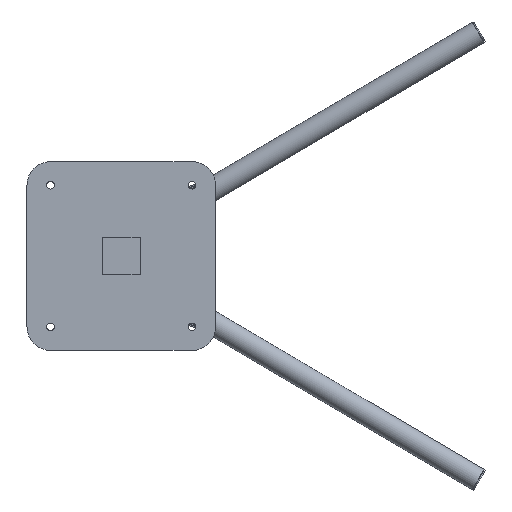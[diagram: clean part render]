
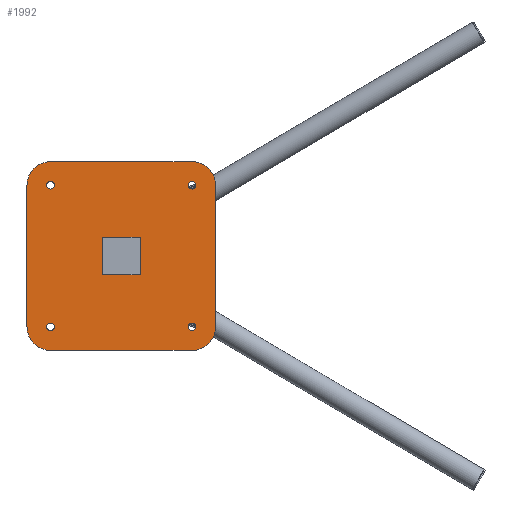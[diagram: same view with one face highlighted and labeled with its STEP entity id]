
A CAD part, front view. The second image highlights one B-rep face of the part: STEP entity #1992.
In plain terms, the highlighted planar face has unit normal (0, -1, 0).
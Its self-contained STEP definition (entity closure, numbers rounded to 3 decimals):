
#83=CIRCLE('',#2201,50.);
#84=CIRCLE('',#2202,50.);
#85=CIRCLE('',#2203,50.);
#86=CIRCLE('',#2204,50.);
#87=CIRCLE('',#2205,8.);
#88=CIRCLE('',#2206,8.);
#89=CIRCLE('',#2207,8.);
#90=CIRCLE('',#2208,8.);
#217=LINE('',#3233,#399);
#223=LINE('',#3246,#405);
#227=LINE('',#3255,#409);
#234=LINE('',#3284,#416);
#237=LINE('',#3298,#419);
#238=LINE('',#3300,#420);
#239=LINE('',#3302,#421);
#240=LINE('',#3303,#422);
#399=VECTOR('',#2639,300.);
#405=VECTOR('',#2647,300.);
#409=VECTOR('',#2653,300.);
#416=VECTOR('',#2680,300.);
#419=VECTOR('',#2697,80.);
#420=VECTOR('',#2698,80.);
#421=VECTOR('',#2699,80.);
#422=VECTOR('',#2700,80.);
#540=FACE_BOUND('',#750,.T.);
#541=FACE_BOUND('',#751,.T.);
#542=FACE_BOUND('',#752,.T.);
#543=FACE_BOUND('',#753,.T.);
#544=FACE_BOUND('',#754,.T.);
#622=FACE_OUTER_BOUND('',#749,.T.);
#749=EDGE_LOOP('',(#1643,#1644,#1645,#1646,#1647,#1648,#1649,#1650));
#750=EDGE_LOOP('',(#1651));
#751=EDGE_LOOP('',(#1652));
#752=EDGE_LOOP('',(#1653,#1654,#1655,#1656));
#753=EDGE_LOOP('',(#1657));
#754=EDGE_LOOP('',(#1658));
#925=VERTEX_POINT('',#3231);
#926=VERTEX_POINT('',#3232);
#931=VERTEX_POINT('',#3243);
#932=VERTEX_POINT('',#3245);
#935=VERTEX_POINT('',#3252);
#936=VERTEX_POINT('',#3254);
#947=VERTEX_POINT('',#3282);
#948=VERTEX_POINT('',#3283);
#949=VERTEX_POINT('',#3292);
#950=VERTEX_POINT('',#3294);
#951=VERTEX_POINT('',#3296);
#952=VERTEX_POINT('',#3297);
#953=VERTEX_POINT('',#3299);
#954=VERTEX_POINT('',#3301);
#955=VERTEX_POINT('',#3304);
#956=VERTEX_POINT('',#3306);
#1167=EDGE_CURVE('',#925,#926,#217,.T.);
#1173=EDGE_CURVE('',#931,#932,#223,.T.);
#1177=EDGE_CURVE('',#936,#935,#227,.T.);
#1192=EDGE_CURVE('',#947,#948,#234,.T.);
#1195=EDGE_CURVE('',#926,#948,#83,.T.);
#1196=EDGE_CURVE('',#947,#932,#84,.T.);
#1197=EDGE_CURVE('',#931,#936,#85,.T.);
#1198=EDGE_CURVE('',#935,#925,#86,.T.);
#1199=EDGE_CURVE('',#949,#949,#87,.T.);
#1200=EDGE_CURVE('',#950,#950,#88,.T.);
#1201=EDGE_CURVE('',#951,#952,#237,.T.);
#1202=EDGE_CURVE('',#953,#951,#238,.T.);
#1203=EDGE_CURVE('',#954,#953,#239,.T.);
#1204=EDGE_CURVE('',#952,#954,#240,.T.);
#1205=EDGE_CURVE('',#955,#955,#89,.T.);
#1206=EDGE_CURVE('',#956,#956,#90,.T.);
#1643=ORIENTED_EDGE('',*,*,#1167,.T.);
#1644=ORIENTED_EDGE('',*,*,#1195,.T.);
#1645=ORIENTED_EDGE('',*,*,#1192,.F.);
#1646=ORIENTED_EDGE('',*,*,#1196,.T.);
#1647=ORIENTED_EDGE('',*,*,#1173,.F.);
#1648=ORIENTED_EDGE('',*,*,#1197,.T.);
#1649=ORIENTED_EDGE('',*,*,#1177,.T.);
#1650=ORIENTED_EDGE('',*,*,#1198,.T.);
#1651=ORIENTED_EDGE('',*,*,#1199,.F.);
#1652=ORIENTED_EDGE('',*,*,#1200,.F.);
#1653=ORIENTED_EDGE('',*,*,#1201,.F.);
#1654=ORIENTED_EDGE('',*,*,#1202,.F.);
#1655=ORIENTED_EDGE('',*,*,#1203,.F.);
#1656=ORIENTED_EDGE('',*,*,#1204,.F.);
#1657=ORIENTED_EDGE('',*,*,#1205,.F.);
#1658=ORIENTED_EDGE('',*,*,#1206,.F.);
#1896=PLANE('',#2200);
#1992=ADVANCED_FACE('',(#622,#540,#541,#542,#543,#544),#1896,.T.);
#2200=AXIS2_PLACEMENT_3D('',#3287,#2683,#2684);
#2201=AXIS2_PLACEMENT_3D('',#3288,#2685,#2686);
#2202=AXIS2_PLACEMENT_3D('',#3289,#2687,#2688);
#2203=AXIS2_PLACEMENT_3D('',#3290,#2689,#2690);
#2204=AXIS2_PLACEMENT_3D('',#3291,#2691,#2692);
#2205=AXIS2_PLACEMENT_3D('',#3293,#2693,#2694);
#2206=AXIS2_PLACEMENT_3D('',#3295,#2695,#2696);
#2207=AXIS2_PLACEMENT_3D('',#3305,#2701,#2702);
#2208=AXIS2_PLACEMENT_3D('',#3307,#2703,#2704);
#2639=DIRECTION('',(-1.,0.,0.));
#2647=DIRECTION('',(-1.,0.,0.));
#2653=DIRECTION('',(0.,0.,1.));
#2680=DIRECTION('',(0.,0.,1.));
#2683=DIRECTION('center_axis',(0.,-1.,0.));
#2684=DIRECTION('ref_axis',(-1.,0.,0.));
#2685=DIRECTION('center_axis',(0.,-1.,0.));
#2686=DIRECTION('ref_axis',(0.,0.,1.));
#2687=DIRECTION('center_axis',(0.,-1.,0.));
#2688=DIRECTION('ref_axis',(-1.,0.,0.));
#2689=DIRECTION('center_axis',(0.,-1.,0.));
#2690=DIRECTION('ref_axis',(0.,0.,
-1.));
#2691=DIRECTION('center_axis',(0.,-1.,0.));
#2692=DIRECTION('ref_axis',(1.,0.,0.));
#2693=DIRECTION('center_axis',(0.,-1.,0.));
#2694=DIRECTION('ref_axis',(0.,0.,
-1.));
#2695=DIRECTION('center_axis',(0.,-1.,0.));
#2696=DIRECTION('ref_axis',(0.,0.,
-1.));
#2697=DIRECTION('',(1.,0.,0.));
#2698=DIRECTION('',(0.,0.,-1.));
#2699=DIRECTION('',(-1.,0.,0.));
#2700=DIRECTION('',(0.,0.,1.));
#2701=DIRECTION('center_axis',(0.,-1.,0.));
#2702=DIRECTION('ref_axis',(0.,0.,
-1.));
#2703=DIRECTION('center_axis',(0.,-1.,0.));
#2704=DIRECTION('ref_axis',(0.,0.,
-1.));
#3231=CARTESIAN_POINT('',(350.,-8.,400.));
#3232=CARTESIAN_POINT('',(50.,-8.,400.));
#3233=CARTESIAN_POINT('',(350.,-8.,400.));
#3243=CARTESIAN_POINT('',(350.,-8.,0.));
#3245=CARTESIAN_POINT('',(50.,-8.,0.));
#3246=CARTESIAN_POINT('',(350.,-8.,0.));
#3252=CARTESIAN_POINT('',(400.,-8.,350.));
#3254=CARTESIAN_POINT('',(400.,-8.,50.));
#3255=CARTESIAN_POINT('',(400.,-8.,50.));
#3282=CARTESIAN_POINT('',(0.,-8.,50.));
#3283=CARTESIAN_POINT('',(0.,-8.,350.));
#3284=CARTESIAN_POINT('',(0.,-8.,50.));
#3287=CARTESIAN_POINT('Origin',(404.,-8.,404.));
#3288=CARTESIAN_POINT('Origin',(50.,-8.,350.));
#3289=CARTESIAN_POINT('Origin',(50.,-8.,50.));
#3290=CARTESIAN_POINT('Origin',(350.,-8.,50.));
#3291=CARTESIAN_POINT('Origin',(350.,-8.,350.));
#3292=CARTESIAN_POINT('',(50.,-8.,58.));
#3293=CARTESIAN_POINT('Origin',(50.,-8.,50.));
#3294=CARTESIAN_POINT('',(350.,-8.,358.));
#3295=CARTESIAN_POINT('Origin',(350.,-8.,350.));
#3296=CARTESIAN_POINT('',(160.,-8.,160.));
#3297=CARTESIAN_POINT('',(240.,-8.,160.));
#3298=CARTESIAN_POINT('',(160.,-8.,160.));
#3299=CARTESIAN_POINT('',(160.,-8.,240.));
#3300=CARTESIAN_POINT('',(160.,-8.,240.));
#3301=CARTESIAN_POINT('',(240.,-8.,240.));
#3302=CARTESIAN_POINT('',(240.,-8.,240.));
#3303=CARTESIAN_POINT('',(240.,-8.,160.));
#3304=CARTESIAN_POINT('',(50.,-8.,358.));
#3305=CARTESIAN_POINT('Origin',(50.,-8.,350.));
#3306=CARTESIAN_POINT('',(350.,-8.,58.));
#3307=CARTESIAN_POINT('Origin',(350.,-8.,50.));
